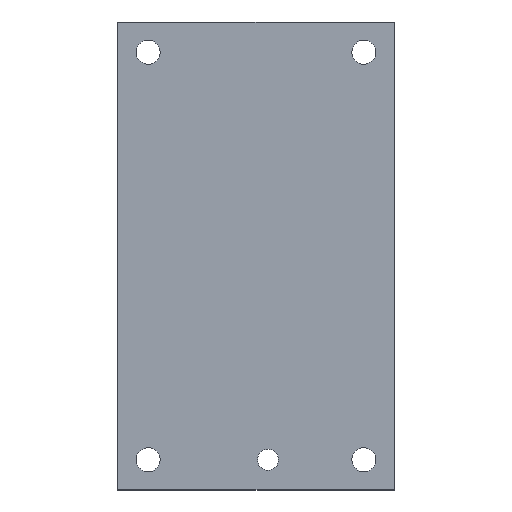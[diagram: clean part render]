
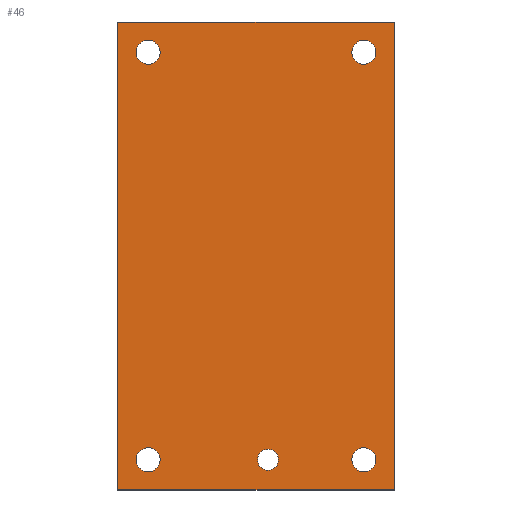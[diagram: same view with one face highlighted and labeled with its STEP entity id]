
A CAD part, top view. The second image highlights one B-rep face of the part: STEP entity #46.
In plain terms, the highlighted planar face has unit normal (0, 0, 1).
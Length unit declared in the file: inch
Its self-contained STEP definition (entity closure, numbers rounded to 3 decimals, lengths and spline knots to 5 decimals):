
#1 = VERTEX_POINT ( 'NONE', #238 ) ;
#3 = EDGE_CURVE ( 'NONE', #1, #5, #222, .T. ) ;
#5 = VERTEX_POINT ( 'NONE', #262 ) ;
#6 = VERTEX_POINT ( 'NONE', #261 ) ;
#22 = VERTEX_POINT ( 'NONE', #211 ) ;
#23 = VERTEX_POINT ( 'NONE', #210 ) ;
#24 = EDGE_LOOP ( 'NONE', ( #84, #89 ) ) ;
#26 = EDGE_CURVE ( 'NONE', #23, #22, #216, .T. ) ;
#36 = VERTEX_POINT ( 'NONE', #249 ) ;
#38 = EDGE_CURVE ( 'NONE', #36, #39, #294, .T. ) ;
#39 = VERTEX_POINT ( 'NONE', #290 ) ;
#43 = VERTEX_POINT ( 'NONE', #295 ) ;
#45 = EDGE_LOOP ( 'NONE', ( #86, #87 ) ) ;
#46 = ADVANCED_FACE ( 'NONE', ( #302, #301, #281, #280, #279, #278 ), #300, .F. ) ;
#47 = VERTEX_POINT ( 'NONE', #317 ) ;
#61 = EDGE_CURVE ( 'NONE', #62, #63, #270, .T. ) ;
#62 = VERTEX_POINT ( 'NONE', #310 ) ;
#63 = VERTEX_POINT ( 'NONE', #360 ) ;
#78 = EDGE_CURVE ( 'NONE', #6, #43, #333, .T. ) ;
#80 = ORIENTED_EDGE ( 'NONE', *, *, #26, .F. ) ;
#81 = ORIENTED_EDGE ( 'NONE', *, *, #98, .T. ) ;
#82 = EDGE_CURVE ( 'NONE', #99, #83, #327, .T. ) ;
#83 = VERTEX_POINT ( 'NONE', #424 ) ;
#84 = ORIENTED_EDGE ( 'NONE', *, *, #38, .F. ) ;
#85 = EDGE_CURVE ( 'NONE', #39, #36, #386, .T. ) ;
#86 = ORIENTED_EDGE ( 'NONE', *, *, #61, .F. ) ;
#87 = ORIENTED_EDGE ( 'NONE', *, *, #88, .F. ) ;
#88 = EDGE_CURVE ( 'NONE', #63, #62, #483, .T. ) ;
#89 = ORIENTED_EDGE ( 'NONE', *, *, #85, .F. ) ;
#90 = EDGE_CURVE ( 'NONE', #91, #47, #416, .T. ) ;
#91 = VERTEX_POINT ( 'NONE', #425 ) ;
#92 = EDGE_LOOP ( 'NONE', ( #93, #81, #96, #100 ) ) ;
#93 = ORIENTED_EDGE ( 'NONE', *, *, #90, .T. ) ;
#94 = EDGE_LOOP ( 'NONE', ( #193, #149 ) ) ;
#95 = ORIENTED_EDGE ( 'NONE', *, *, #184, .F. ) ;
#96 = ORIENTED_EDGE ( 'NONE', *, *, #82, .T. ) ;
#97 = EDGE_LOOP ( 'NONE', ( #80, #95 ) ) ;
#98 = EDGE_CURVE ( 'NONE', #47, #99, #456, .T. ) ;
#99 = VERTEX_POINT ( 'NONE', #363 ) ;
#100 = ORIENTED_EDGE ( 'NONE', *, *, #101, .T. ) ;
#101 = EDGE_CURVE ( 'NONE', #83, #91, #362, .T. ) ;
#110 = ORIENTED_EDGE ( 'NONE', *, *, #3, .F. ) ;
#114 = EDGE_CURVE ( 'NONE', #5, #1, #422, .T. ) ;
#148 = EDGE_LOOP ( 'NONE', ( #110, #151 ) ) ;
#149 = ORIENTED_EDGE ( 'NONE', *, *, #150, .F. ) ;
#150 = EDGE_CURVE ( 'NONE', #43, #6, #490, .T. ) ;
#151 = ORIENTED_EDGE ( 'NONE', *, *, #114, .F. ) ;
#184 = EDGE_CURVE ( 'NONE', #22, #23, #370, .T. ) ;
#193 = ORIENTED_EDGE ( 'NONE', *, *, #78, .F. ) ;
#201 = CARTESIAN_POINT ( 'NONE',  ( 0.125, -2.125, 0.072 ) ) ;
#202 = AXIS2_PLACEMENT_3D ( 'NONE', #201, #220, #219 ) ;
#210 = CARTESIAN_POINT ( 'NONE',  ( -1.25, 2.125, 0.072 ) ) ;
#211 = CARTESIAN_POINT ( 'NONE',  ( -1., 2.125, 0.072 ) ) ;
#216 = CIRCLE ( 'NONE', #236, 0.125 ) ;
#219 = DIRECTION ( 'NONE',  ( 1., 0., 0. ) ) ;
#220 = DIRECTION ( 'NONE',  ( 0., 0., 1. ) ) ;
#222 = CIRCLE ( 'NONE', #202, 0.1095 ) ;
#233 = DIRECTION ( 'NONE',  ( 1., 0., 0. ) ) ;
#234 = DIRECTION ( 'NONE',  ( 0., 0., 1. ) ) ;
#235 = CARTESIAN_POINT ( 'NONE',  ( -1.125, 2.125, 0.072 ) ) ;
#236 = AXIS2_PLACEMENT_3D ( 'NONE', #235, #234, #233 ) ;
#238 = CARTESIAN_POINT ( 'NONE',  ( 0.0155, -2.125, 0.072 ) ) ;
#247 = DIRECTION ( 'NONE',  ( 1., 0., 0. ) ) ;
#249 = CARTESIAN_POINT ( 'NONE',  ( 1., 2.125, 0.072 ) ) ;
#261 = CARTESIAN_POINT ( 'NONE',  ( 1., -2.125, 0.072 ) ) ;
#262 = CARTESIAN_POINT ( 'NONE',  ( 0.2345, -2.125, 0.072 ) ) ;
#269 = DIRECTION ( 'NONE',  ( 0., 0., 1. ) ) ;
#270 = CIRCLE ( 'NONE', #309, 0.125 ) ;
#277 = CARTESIAN_POINT ( 'NONE',  ( 1.125, 2.125, 0.072 ) ) ;
#278 = FACE_BOUND ( 'NONE', #148, .T. ) ;
#279 = FACE_BOUND ( 'NONE', #94, .T. ) ;
#280 = FACE_BOUND ( 'NONE', #97, .T. ) ;
#281 = FACE_OUTER_BOUND ( 'NONE', #92, .T. ) ;
#290 = CARTESIAN_POINT ( 'NONE',  ( 1.25, 2.125, 0.072 ) ) ;
#293 = AXIS2_PLACEMENT_3D ( 'NONE', #277, #269, #356 ) ;
#294 = CIRCLE ( 'NONE', #293, 0.125 ) ;
#295 = CARTESIAN_POINT ( 'NONE',  ( 1.25, -2.125, 0.072 ) ) ;
#296 = DIRECTION ( 'NONE',  ( -1., 0., 0. ) ) ;
#297 = DIRECTION ( 'NONE',  ( 0., 0., -1. ) ) ;
#298 = CARTESIAN_POINT ( 'NONE',  ( -1.44, -2.44, 0.072 ) ) ;
#299 = AXIS2_PLACEMENT_3D ( 'NONE', #298, #297, #296 ) ;
#300 = PLANE ( 'NONE',  #299 ) ;
#301 = FACE_BOUND ( 'NONE', #24, .T. ) ;
#302 = FACE_BOUND ( 'NONE', #45, .T. ) ;
#306 = DIRECTION ( 'NONE',  ( 1., 0., 0. ) ) ;
#307 = DIRECTION ( 'NONE',  ( 0., 0., 1. ) ) ;
#308 = CARTESIAN_POINT ( 'NONE',  ( -1.125, -2.125, 0.072 ) ) ;
#309 = AXIS2_PLACEMENT_3D ( 'NONE', #308, #307, #306 ) ;
#310 = CARTESIAN_POINT ( 'NONE',  ( -1.25, -2.125, 0.072 ) ) ;
#317 = CARTESIAN_POINT ( 'NONE',  ( -1.44, -2.44, 0.072 ) ) ;
#324 = DIRECTION ( 'NONE',  ( 0., 1., 0. ) ) ;
#325 = VECTOR ( 'NONE', #324, 39.37008 ) ;
#326 = CARTESIAN_POINT ( 'NONE',  ( 1.44, -2.44, 0.072 ) ) ;
#327 = LINE ( 'NONE', #326, #325 ) ;
#329 = DIRECTION ( 'NONE',  ( 1., 0., 0. ) ) ;
#330 = DIRECTION ( 'NONE',  ( 0., 0., 1. ) ) ;
#331 = CARTESIAN_POINT ( 'NONE',  ( 1.125, -2.125, 0.072 ) ) ;
#332 = AXIS2_PLACEMENT_3D ( 'NONE', #331, #330, #329 ) ;
#333 = CIRCLE ( 'NONE', #332, 0.125 ) ;
#356 = DIRECTION ( 'NONE',  ( 1., 0., 0. ) ) ;
#360 = CARTESIAN_POINT ( 'NONE',  ( -1., -2.125, 0.072 ) ) ;
#361 = CARTESIAN_POINT ( 'NONE',  ( -1.44, 2.44, 0.072 ) ) ;
#362 = LINE ( 'NONE', #361, #405 ) ;
#363 = CARTESIAN_POINT ( 'NONE',  ( 1.44, -2.44, 0.072 ) ) ;
#364 = DIRECTION ( 'NONE',  ( 1., 0., 0. ) ) ;
#365 = VECTOR ( 'NONE', #364, 39.37008 ) ;
#366 = CARTESIAN_POINT ( 'NONE',  ( -1.44, -2.44, 0.072 ) ) ;
#367 = DIRECTION ( 'NONE',  ( 0., 0., 1. ) ) ;
#368 = CARTESIAN_POINT ( 'NONE',  ( -1.125, 2.125, 0.072 ) ) ;
#369 = AXIS2_PLACEMENT_3D ( 'NONE', #368, #367, #247 ) ;
#370 = CIRCLE ( 'NONE', #369, 0.125 ) ;
#384 = DIRECTION ( 'NONE',  ( 0., 0., 1. ) ) ;
#385 = CARTESIAN_POINT ( 'NONE',  ( -1.125, -2.125, 0.072 ) ) ;
#386 = CIRCLE ( 'NONE', #417, 0.125 ) ;
#404 = DIRECTION ( 'NONE',  ( -1., 0., 0. ) ) ;
#405 = VECTOR ( 'NONE', #404, 39.37008 ) ;
#406 = CARTESIAN_POINT ( 'NONE',  ( 1.125, 2.125, 0.072 ) ) ;
#407 = AXIS2_PLACEMENT_3D ( 'NONE', #385, #472, #471 ) ;
#414 = DIRECTION ( 'NONE',  ( 0., -1., 0. ) ) ;
#415 = CARTESIAN_POINT ( 'NONE',  ( -1.44, -2.44, 0.072 ) ) ;
#416 = LINE ( 'NONE', #415, #426 ) ;
#417 = AXIS2_PLACEMENT_3D ( 'NONE', #406, #384, #457 ) ;
#418 = DIRECTION ( 'NONE',  ( 1., 0., 0. ) ) ;
#419 = DIRECTION ( 'NONE',  ( 0., 0., 1. ) ) ;
#420 = CARTESIAN_POINT ( 'NONE',  ( 0.125, -2.125, 0.072 ) ) ;
#421 = AXIS2_PLACEMENT_3D ( 'NONE', #420, #419, #418 ) ;
#422 = CIRCLE ( 'NONE', #421, 0.1095 ) ;
#424 = CARTESIAN_POINT ( 'NONE',  ( 1.44, 2.44, 0.072 ) ) ;
#425 = CARTESIAN_POINT ( 'NONE',  ( -1.44, 2.44, 0.072 ) ) ;
#426 = VECTOR ( 'NONE', #414, 39.37008 ) ;
#456 = LINE ( 'NONE', #366, #365 ) ;
#457 = DIRECTION ( 'NONE',  ( 1., 0., 0. ) ) ;
#467 = DIRECTION ( 'NONE',  ( 1., 0., 0. ) ) ;
#468 = DIRECTION ( 'NONE',  ( 0., 0., 1. ) ) ;
#469 = CARTESIAN_POINT ( 'NONE',  ( 1.125, -2.125, 0.072 ) ) ;
#470 = AXIS2_PLACEMENT_3D ( 'NONE', #469, #468, #467 ) ;
#471 = DIRECTION ( 'NONE',  ( 1., 0., 0. ) ) ;
#472 = DIRECTION ( 'NONE',  ( 0., 0., 1. ) ) ;
#483 = CIRCLE ( 'NONE', #407, 0.125 ) ;
#490 = CIRCLE ( 'NONE', #470, 0.125 ) ;
